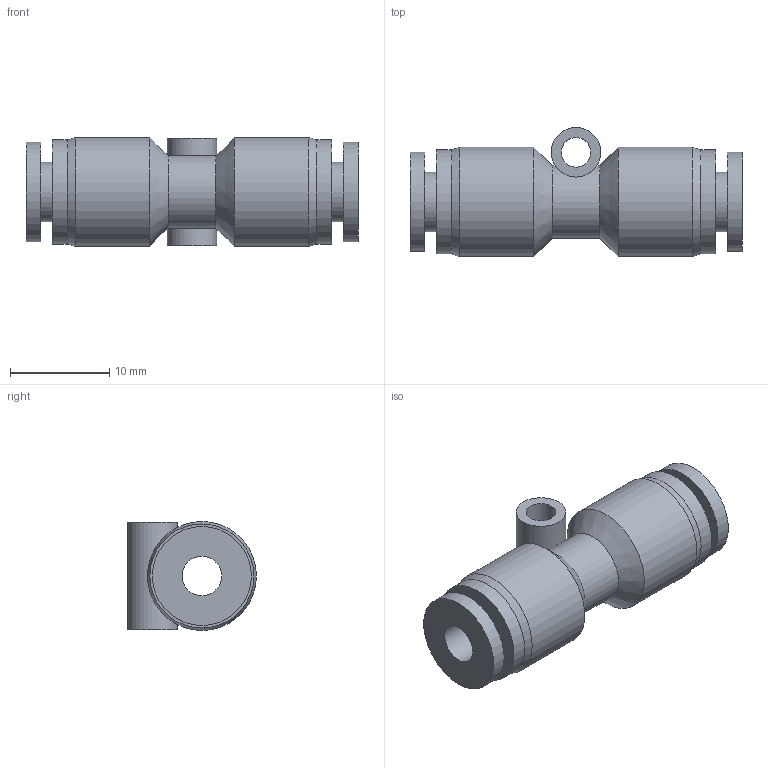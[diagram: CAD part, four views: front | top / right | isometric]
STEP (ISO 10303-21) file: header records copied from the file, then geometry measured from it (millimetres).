
FILE_DESCRIPTION((''),'2;1');
FILE_NAME('S:\UTecnico\ArchivioUT\Speciali Clienti\Speciali KONFIT\DISEGNI 3D\RP\RP 53\RP530004.stp','2012-05-24T08:52:33',('UT5'),(''),'Autodesk Inventor 2012','Autodesk Inventor 2012','');
FILE_SCHEMA(('AUTOMOTIVE_DESIGN { 1 0 10303 214 1 1 1 1 }'));
Length unit declared in the file: millimetre
Products named in the file (1): RP530004
Bounding box: 33.5 x 13 x 11 mm (x, y, z)
Volume: 2291.2 mm3; surface area: 2100.5 mm2
Topology: 1 solids, 1 shells, 24 faces, 43 edges, 26 vertices
Faces by surface type: cylinder 12, plane 8, cone 4
Full cylindrical faces by diameter (mm): 3 x1, 4 x1, 5 x1, 6 x2, 7.3 x1, 10 x2, 10.5 x2, 11 x2
Entity records: 593 total; most frequent: CARTESIAN_POINT 116, DIRECTION 98, ORIENTED_EDGE 50, EDGE_LOOP 50, AXIS2_PLACEMENT_3D 49, FACE_BOUND 26, VERTEX_POINT 25, EDGE_CURVE 25
